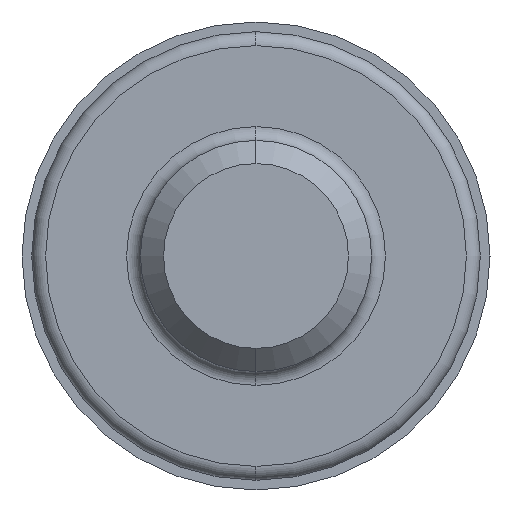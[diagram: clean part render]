
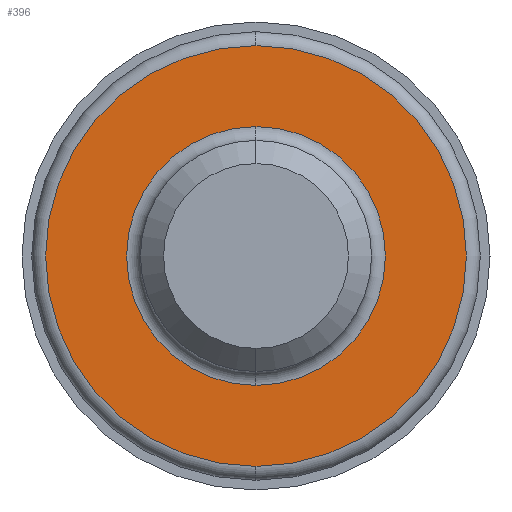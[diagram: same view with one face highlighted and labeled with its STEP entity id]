
A CAD part, left-side view. The second image highlights one B-rep face of the part: STEP entity #396.
In plain terms, the highlighted planar face has unit normal (-1, 0, 0).
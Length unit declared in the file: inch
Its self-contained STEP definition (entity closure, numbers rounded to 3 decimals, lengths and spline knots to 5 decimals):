
#16 = DIRECTION ( 'NONE',  ( -1., 0., 0. ) ) ;
#27 = FACE_OUTER_BOUND ( 'NONE', #144, .T. ) ;
#30 = CARTESIAN_POINT ( 'NONE',  ( 1.88, 0., -0.455 ) ) ;
#75 = DIRECTION ( 'NONE',  ( 0., 0., 1. ) ) ;
#80 = AXIS2_PLACEMENT_3D ( 'NONE', #812, #348, #291 ) ;
#87 = DIRECTION ( 'NONE',  ( 0., 0., -1. ) ) ;
#141 = ORIENTED_EDGE ( 'NONE', *, *, #590, .T. ) ;
#144 = EDGE_LOOP ( 'NONE', ( #453, #141 ) ) ;
#146 = CIRCLE ( 'NONE', #682, 0.27985 ) ;
#152 = CARTESIAN_POINT ( 'NONE',  ( 1.88, 0.455, 0. ) ) ;
#158 = VERTEX_POINT ( 'NONE', #665 ) ;
#182 = EDGE_CURVE ( 'NONE', #158, #211, #146, .T. ) ;
#189 = ORIENTED_EDGE ( 'NONE', *, *, #625, .F. ) ;
#206 = CARTESIAN_POINT ( 'NONE',  ( 1.88, 0., 0. ) ) ;
#211 = VERTEX_POINT ( 'NONE', #596 ) ;
#263 = CIRCLE ( 'NONE', #514, 0.27985 ) ;
#267 = ORIENTED_EDGE ( 'NONE', *, *, #182, .F. ) ;
#291 = DIRECTION ( 'NONE',  ( 0., 0., 1. ) ) ;
#348 = DIRECTION ( 'NONE',  ( -1., 0., 0. ) ) ;
#375 = VERTEX_POINT ( 'NONE', #392 ) ;
#386 = VERTEX_POINT ( 'NONE', #30 ) ;
#392 = CARTESIAN_POINT ( 'NONE',  ( 1.88, 0., 0.455 ) ) ;
#396 = ADVANCED_FACE ( 'NONE', ( #589, #27 ), #521, .F. ) ;
#399 = CARTESIAN_POINT ( 'NONE',  ( 1.88, 0., 0. ) ) ;
#401 = DIRECTION ( 'NONE',  ( 1., 0., 0. ) ) ;
#453 = ORIENTED_EDGE ( 'NONE', *, *, #744, .T. ) ;
#514 = AXIS2_PLACEMENT_3D ( 'NONE', #206, #591, #517 ) ;
#517 = DIRECTION ( 'NONE',  ( 0., 0., 1. ) ) ;
#521 = PLANE ( 'NONE',  #612 ) ;
#531 = EDGE_LOOP ( 'NONE', ( #267, #189 ) ) ;
#538 = CARTESIAN_POINT ( 'NONE',  ( 1.88, 0., 0. ) ) ;
#589 = FACE_BOUND ( 'NONE', #531, .T. ) ;
#590 = EDGE_CURVE ( 'NONE', #386, #375, #750, .T. ) ;
#591 = DIRECTION ( 'NONE',  ( -1., 0., 0. ) ) ;
#596 = CARTESIAN_POINT ( 'NONE',  ( 1.88, 0., -0.27985 ) ) ;
#612 = AXIS2_PLACEMENT_3D ( 'NONE', #152, #401, #87 ) ;
#625 = EDGE_CURVE ( 'NONE', #211, #158, #263, .T. ) ;
#642 = DIRECTION ( 'NONE',  ( -1., 0., 0. ) ) ;
#663 = DIRECTION ( 'NONE',  ( 0., 0., 1. ) ) ;
#665 = CARTESIAN_POINT ( 'NONE',  ( 1.88, 0., 0.27985 ) ) ;
#682 = AXIS2_PLACEMENT_3D ( 'NONE', #538, #16, #663 ) ;
#744 = EDGE_CURVE ( 'NONE', #375, #386, #789, .T. ) ;
#750 = CIRCLE ( 'NONE', #817, 0.455 ) ;
#789 = CIRCLE ( 'NONE', #80, 0.455 ) ;
#812 = CARTESIAN_POINT ( 'NONE',  ( 1.88, 0., 0. ) ) ;
#817 = AXIS2_PLACEMENT_3D ( 'NONE', #399, #642, #75 ) ;
